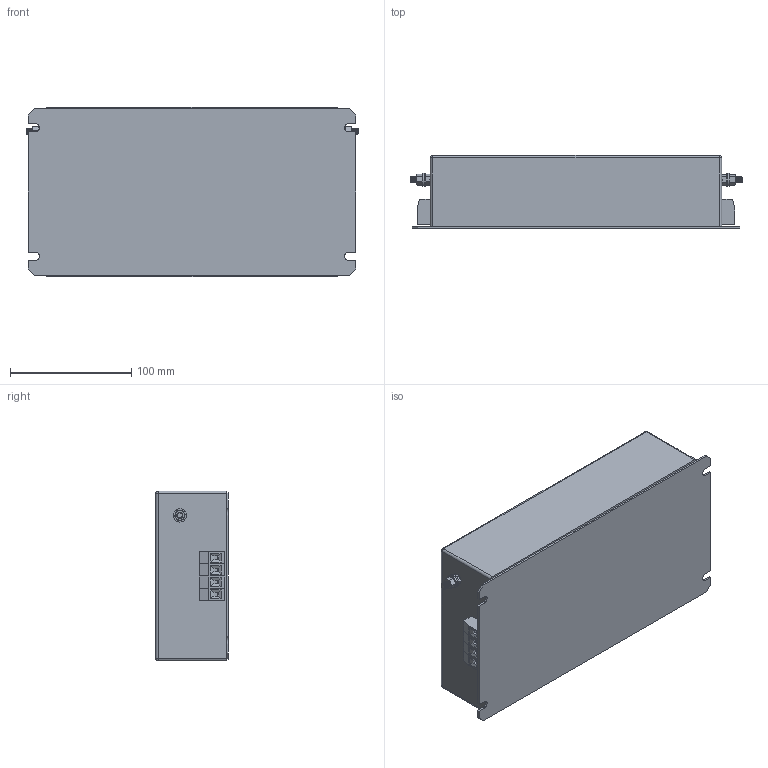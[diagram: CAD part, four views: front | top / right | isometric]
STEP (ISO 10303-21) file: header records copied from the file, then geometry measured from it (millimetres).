
FILE_DESCRIPTION (( 'STEP AP203' ), '1' );
FILE_NAME ('NF-4-12.STEP', '2022-05-17T13:57:37', ( '' ), ( '' ), 'SwSTEP 2.0', 'SolidWorks 2017', '' );
FILE_SCHEMA (( 'CONFIG_CONTROL_DESIGN' ));
Length unit declared in the file: millimetre
Products named in the file (8): M5x13 Earth post; hex screw_am_B18.6.7M - M5 x 0.8 x 13 Indented HHMS --13S; hex nut style 1_am_B18.2.4.1M - Hex nut, Style 1,  M5 x 0.8 --D-N; NF-4-12; flat washer narrow_am_B18.22M - Plain washer, 5 mm, narrow; VDFK4x2; VDFK-4
Assembly tree (13 placements, depth 3):
  NF-4-12
    NF-4-12
    M5x13 Earth post  x2
      hex screw_am_B18.6.7M - M5 x 0.8 x 13 Indented HHMS --13S
      flat washer narrow_am_B18.22M - Plain washer, 5 mm, narrow
      hex nut style 1_am_B18.2.4.1M - Hex nut, Style 1,  M5 x 0.8 --D-N
    VDFK4x2  x4
      VDFK-4
Bounding box: 273.6 x 60 x 140 mm (x, y, z)
Volume: 1985496.9 mm3; surface area: 161678.5 mm2
Topology: 17 solids, 17 shells, 668 faces, 1638 edges, 1036 vertices
Faces by surface type: plane 338, cone 176, cylinder 150, sphere 4
Entity records: 8475 total; most frequent: CARTESIAN_POINT 1412, DIRECTION 1377, ORIENTED_EDGE 1222, EDGE_CURVE 611, AXIS2_PLACEMENT_3D 539, VERTEX_POINT 382, LINE 299, VECTOR 299
